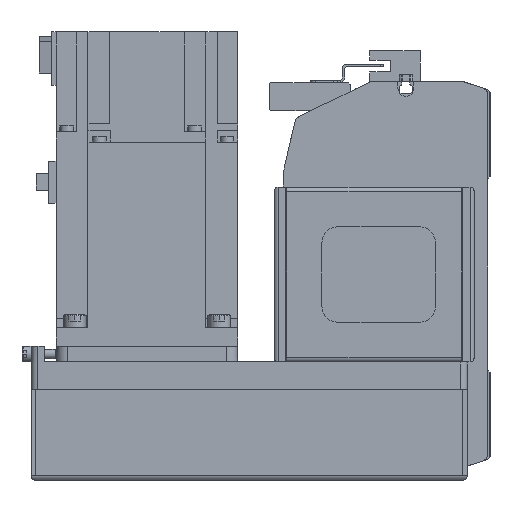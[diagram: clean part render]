
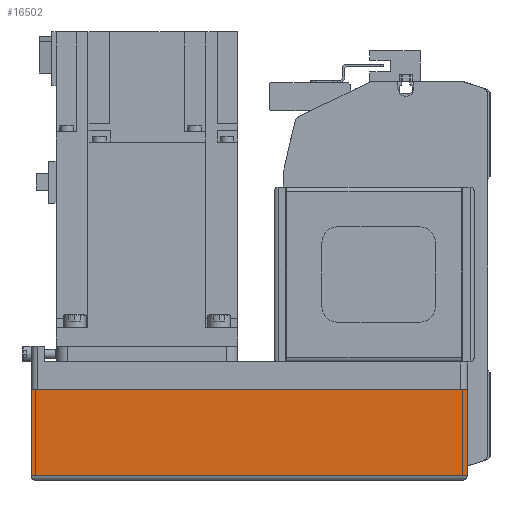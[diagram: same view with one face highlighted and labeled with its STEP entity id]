
A CAD part, left-side view. The second image highlights one B-rep face of the part: STEP entity #16502.
In plain terms, the highlighted planar face has unit normal (-1, 0, 0) as drawn and (0, -1, 0) by its records, which use the part's own axes.
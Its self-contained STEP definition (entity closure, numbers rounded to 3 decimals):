
#2628=ORIENTED_EDGE('',*,*,#6685,.F.);
#2629=ORIENTED_EDGE('',*,*,#6669,.F.);
#2630=ORIENTED_EDGE('',*,*,#6662,.T.);
#2631=ORIENTED_EDGE('',*,*,#6732,.T.);
#6662=EDGE_CURVE('',#8865,#8864,#10552,.T.);
#6669=EDGE_CURVE('',#8865,#8871,#10559,.T.);
#6685=EDGE_CURVE('',#8871,#8885,#10575,.T.);
#6732=EDGE_CURVE('',#8864,#8885,#10596,.T.);
#8864=VERTEX_POINT('',#25389);
#8865=VERTEX_POINT('',#25391);
#8871=VERTEX_POINT('',#25406);
#8885=VERTEX_POINT('',#25439);
#10552=LINE('',#25390,#12138);
#10559=LINE('',#25405,#12145);
#10575=LINE('',#25438,#12161);
#10596=LINE('',#25519,#12182);
#12138=VECTOR('',#20320,1000.);
#12145=VECTOR('',#20331,1000.);
#12161=VECTOR('',#20353,1000.);
#12182=VECTOR('',#20462,1000.);
#13586=EDGE_LOOP('',(#2628,#2629,#2630,#2631));
#14778=FACE_BOUND('',#13586,.T.);
#15801=PLANE('',#17701);
#16502=ADVANCED_FACE('',(#14778),#15801,.T.);
#17701=AXIS2_PLACEMENT_3D('',#25520,#20463,#20464);
#20320=DIRECTION('',(0.,0.,-1.));
#20331=DIRECTION('',(1.,0.,0.));
#20353=DIRECTION('',(0.,0.,-1.));
#20462=DIRECTION('',(1.,0.,0.));
#20463=DIRECTION('',(0.,-1.,0.));
#20464=DIRECTION('',(0.,0.,-1.));
#25389=CARTESIAN_POINT('',(-192.,-40.,-50.));
#25390=CARTESIAN_POINT('',(-192.,-40.,-12.1));
#25391=CARTESIAN_POINT('',(-192.,-40.,-12.1));
#25405=CARTESIAN_POINT('',(-192.,-40.,-12.1));
#25406=CARTESIAN_POINT('',(0.,-40.,-12.1));
#25438=CARTESIAN_POINT('',(0.,-40.,-12.1));
#25439=CARTESIAN_POINT('',(0.,-40.,-50.));
#25519=CARTESIAN_POINT('',(-192.,-40.,-50.));
#25520=CARTESIAN_POINT('',(-192.,-40.,-12.1));
